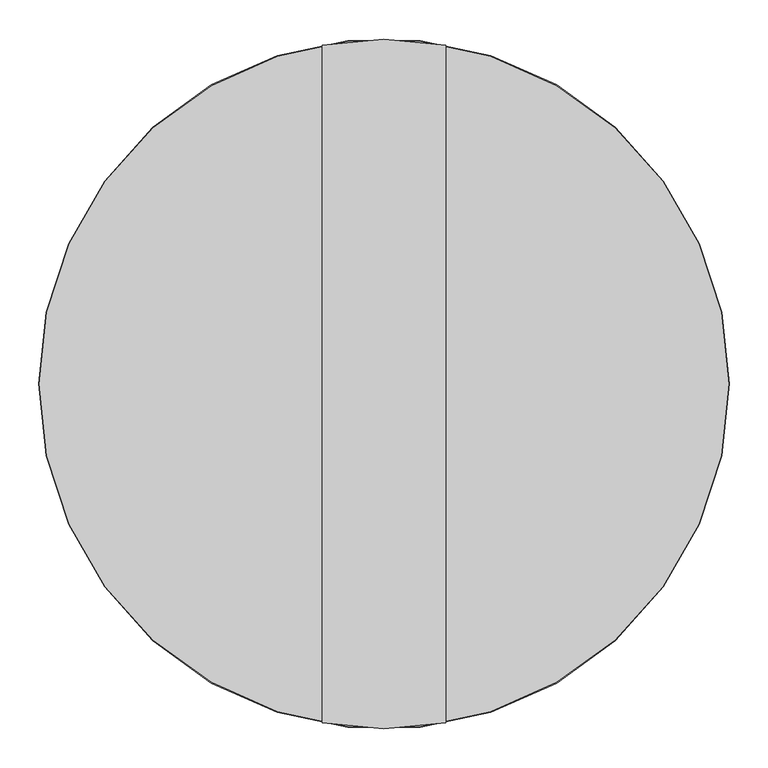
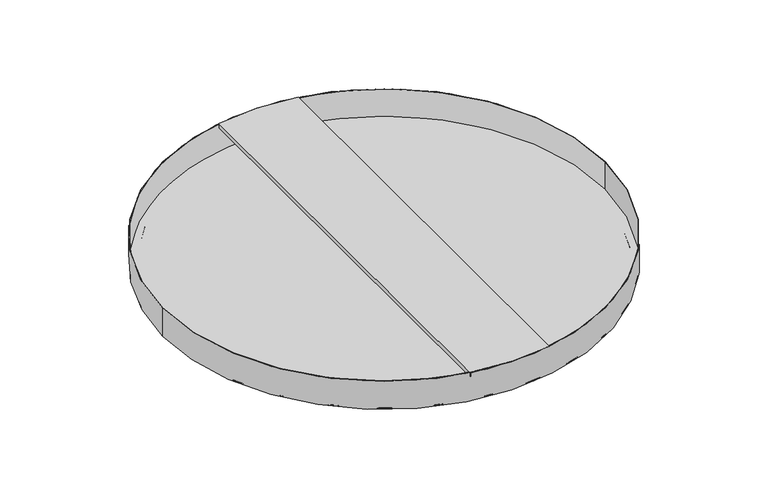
"""IFC4 building model written with IfcOpenShell, lengths in millimetres: proxy geometry, durlum_TOMEO-R : durlum_TOMEO-R 900 RG-L30 TR."""

from ifc_helpers import new_model, si_unit, point, frame, origin, origin_with_axes, origin_2d, place, context, project, spatial, circle_curve, trimmed, segment, composite_curve, outline, extrude, source, transform, mapped, element, save
from ifc_brep_helpers import plane_surface, cylinder_surface, advanced_brep


def generic_models_45aca83d(model_context):
    return source(origin(), model_context, "Body", "SolidModel", [
        advanced_brep(
        [(-80.0, 438.2582002, 60.0), (-80.0, -438.2582002, 60.0), (0.0, -445.5, 60.0), (80.0, -438.2582002, 60.0), (80.0, 438.2582002, 60.0), (0.0, 445.5, 60.0), (80.0, -438.2582002, 51.2547795), (80.0, 438.2582002, 51.2547795), (78.5, -438.5293605, 51.2547795), (78.5, 438.5293605, 51.2547795), (78.5, -438.5293605, 58.5), (78.5, 438.5293605, 58.5), (0.0, -445.5, 58.5), (-78.5, -438.5293605, 58.5), (-78.5, 438.5293605, 58.5), (0.0, 445.5, 58.5), (-78.5, -438.5293605, 51.2547795), (-78.5, 438.5293605, 51.2547795), (-80.0, -438.2582002, 51.2547795), (-80.0, 438.2582002, 51.2547795)],
        [
            (0, 1),
            (1, 2, circle_curve(frame((0.0, 0.0, 60.0), z_axis=(0.0, 0.0, 1.0), x_axis=(0.0, -1.0, 0.0)), 445.5)),
            (2, 3, circle_curve(frame((0.0, 0.0, 60.0), z_axis=(0.0, 0.0, 1.0), x_axis=(0.0, -1.0, 0.0)), 445.5)),
            (3, 4),
            (4, 5, circle_curve(frame((0.0, 0.0, 60.0), z_axis=(0.0, 0.0, 1.0), x_axis=(0.0, -1.0, 0.0)), 445.5)),
            (5, 0, circle_curve(frame((0.0, 0.0, 60.0), z_axis=(0.0, 0.0, 1.0), x_axis=(0.0, -1.0, 0.0)), 445.5)),
            (3, 6),
            (6, 7),
            (7, 4),
            (6, 8, circle_curve(frame((0.0, 0.0, 51.2547795), z_axis=(0.0, 0.0, -1.0), x_axis=(0.0, -1.0, 0.0)), 445.5)),
            (8, 9),
            (9, 7, circle_curve(frame((0.0, 0.0, 51.2547795), z_axis=(0.0, 0.0, -1.0), x_axis=(0.0, -1.0, 0.0)), 445.5)),
            (8, 10),
            (10, 11),
            (11, 9),
            (10, 12, circle_curve(frame((0.0, 0.0, 58.5), z_axis=(0.0, 0.0, -1.0), x_axis=(0.0, -1.0, 0.0)), 445.5)),
            (12, 13, circle_curve(frame((0.0, 0.0, 58.5), z_axis=(0.0, 0.0, -1.0), x_axis=(0.0, -1.0, 0.0)), 445.5)),
            (13, 14),
            (14, 15, circle_curve(frame((0.0, 0.0, 58.5), z_axis=(0.0, 0.0, -1.0), x_axis=(0.0, -1.0, 0.0)), 445.5)),
            (15, 11, circle_curve(frame((0.0, 0.0, 58.5), z_axis=(0.0, 0.0, -1.0), x_axis=(0.0, -1.0, 0.0)), 445.5)),
            (13, 16),
            (16, 17),
            (17, 14),
            (16, 18, circle_curve(frame((0.0, 0.0, 51.2547795), z_axis=(0.0, 0.0, -1.0), x_axis=(0.0, -1.0, 0.0)), 445.5)),
            (18, 19),
            (19, 17, circle_curve(frame((0.0, 0.0, 51.2547795), z_axis=(0.0, 0.0, -1.0), x_axis=(0.0, -1.0, 0.0)), 445.5)),
            (0, 19),
            (18, 1),
            (5, 15),
            (12, 2),
        ],
        [
            plane_surface(frame((-80.0, 445.5, 60.0), z_axis=(0.0, 0.0, 1.0), x_axis=(0.0, -1.0, 0.0))),
            plane_surface(frame((80.0, 445.5, 60.0), z_axis=(1.0, 0.0, 0.0), x_axis=(0.0, -1.0, 0.0))),
            plane_surface(frame((80.0, 445.5, 51.2547795), z_axis=(0.0, 0.0, -1.0), x_axis=(0.0, -1.0, 0.0))),
            plane_surface(frame((78.5, 445.5, 51.2547795), z_axis=(-1.0, 0.0, 0.0), x_axis=(0.0, -1.0, 0.0))),
            plane_surface(frame((78.5, 445.5, 58.5), z_axis=(0.0, 0.0, -1.0), x_axis=(0.0, -1.0, 0.0))),
            plane_surface(frame((-78.5, 445.5, 58.5), z_axis=(1.0, 0.0, 0.0), x_axis=(0.0, -1.0, 0.0))),
            plane_surface(frame((-78.5, 445.5, 51.2547795), z_axis=(0.0, 0.0, -1.0), x_axis=(0.0, -1.0, 0.0))),
            plane_surface(frame((-80.0, 445.5, 51.2547795), z_axis=(-1.0, 0.0, 0.0), x_axis=(0.0, -1.0, 0.0))),
            cylinder_surface(frame((0.0, 0.0, 243.6547052), z_axis=(0.0, 0.0, -1.0), x_axis=(0.0, -1.0, 0.0)), 445.5),
        ],
        [
            (0, [[1, 2, 3, 4, 5, 6]]),
            (1, [[-4, 7, 8, 9]]),
            (2, [[-8, 10, 11, 12]]),
            (3, [[-11, 13, 14, 15]]),
            (4, [[-14, 16, 17, 18, 19, 20]]),
            (5, [[-18, 21, 22, 23]]),
            (6, [[-22, 24, 25, 26]]),
            (7, [[-1, 27, -25, 28]]),
            (8, [[29, -19, -23, -26, -27, -6]]),
            (8, [[30, -2, -28, -24, -21, -17]]),
            (8, [[-29, -5, -9, -12, -15, -20]]),
            (8, [[-30, -16, -13, -10, -7, -3]]),
        ],
    ),
        extrude(outline(composite_curve([segment(trimmed(circle_curve(origin_2d(), 445.5), [point((-445.5, 0.0))], [point((445.5, 0.0))], False, "CARTESIAN"), True, "CONTINUOUS"), segment(trimmed(circle_curve(origin_2d(), 445.5), [point((445.5, 0.0))], [point((-445.5, 0.0))], False, "CARTESIAN"), True, "CONTINUOUS")], self_intersect=False)), frame((0.0, 0.0, 1.0), z_axis=(0.0, 0.0, 1.0), x_axis=(1.0, 0.0, 0.0)), (0.0, 0.0, 1.0), 1.0),
        extrude(outline(composite_curve([segment(trimmed(circle_curve(origin_2d(), 431.5), [point((-431.5, 0.0))], [point((431.5, 0.0))], False, "CARTESIAN"), True, "CONTINUOUS"), segment(trimmed(circle_curve(origin_2d(), 431.5), [point((431.5, 0.0))], [point((-431.5, 0.0))], False, "CARTESIAN"), True, "CONTINUOUS")], self_intersect=False)), origin_with_axes(), (0.0, 0.0, 1.0), 1.0),
        extrude(outline(composite_curve([segment(trimmed(circle_curve(origin_2d(), 445.5), [point((-445.5, 0.0))], [point((445.5, 0.0))], False, "CARTESIAN"), True, "CONTINUOUS"), segment(trimmed(circle_curve(origin_2d(), 445.5), [point((445.5, 0.0))], [point((-445.5, 0.0))], False, "CARTESIAN"), True, "CONTINUOUS")], self_intersect=False), holes=[composite_curve([segment(trimmed(circle_curve(origin_2d(), 431.5), [point((-431.5, 0.0))], [point((431.5, 0.0))], True, "CARTESIAN"), True, "CONTINUOUS"), segment(trimmed(circle_curve(origin_2d(), 431.5), [point((431.5, 0.0))], [point((-431.5, 0.0))], True, "CARTESIAN"), True, "CONTINUOUS")], self_intersect=False)]), origin_with_axes(), (0.0, 0.0, 1.0), 1.0),
        extrude(outline(composite_curve([segment(trimmed(circle_curve(origin_2d(), 446.5), [point((-446.5, 0.0))], [point((446.5, 0.0))], False, "CARTESIAN"), True, "CONTINUOUS"), segment(trimmed(circle_curve(origin_2d(), 446.5), [point((446.5, 0.0))], [point((-446.5, 0.0))], False, "CARTESIAN"), True, "CONTINUOUS")], self_intersect=False), holes=[composite_curve([segment(trimmed(circle_curve(origin_2d(), 445.5), [point((-445.5, 0.0))], [point((445.5, 0.0))], True, "CARTESIAN"), True, "CONTINUOUS"), segment(trimmed(circle_curve(origin_2d(), 445.5), [point((445.5, 0.0))], [point((-445.5, 0.0))], True, "CARTESIAN"), True, "CONTINUOUS")], self_intersect=False)]), origin_with_axes(), (0.0, 0.0, 1.0), 60.0),
    ])


if __name__ == "__main__":
    model = new_model("IFC4")
    model_context = context("Model", 3, world=origin())
    ifc_project = project(units=[si_unit("LENGTHUNIT", "METRE", prefix="MILLI")], contexts=[model_context])
    site = spatial("IfcSite", under=ifc_project)
    building = spatial("IfcBuilding", under=site)
    placement = place(None, origin())
    generic_models_shape = generic_models_45aca83d(model_context)
    element("IfcBuildingElementProxy", 1, Name="durlum_TOMEO-R : durlum_TOMEO-R 900 RG-L30 TR", ObjectType="durlum_TOMEO-R : durlum_TOMEO-R 900 RG-L30 TR", at=placement, inside=building, context=model_context, shape_type="MappedRepresentation", body=[
        mapped(generic_models_shape, transform((0.0, 0.0, 0.0), x_axis=(1.0, 0.0, 0.0), y_axis=(0.0, 1.0, 0.0), z_axis=(0.0, 0.0, 1.0))),
    ])
    save(model, "model.ifc")
